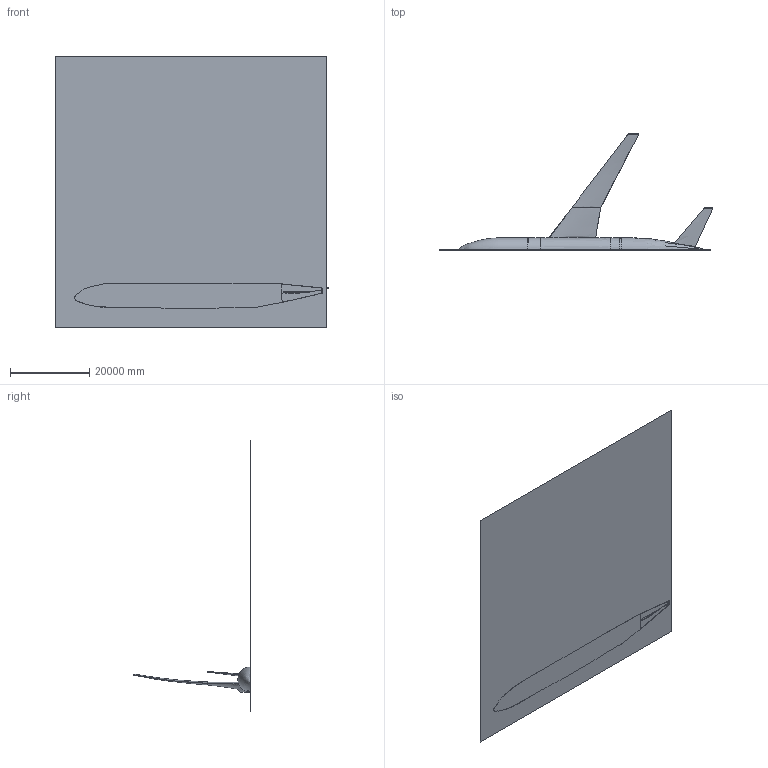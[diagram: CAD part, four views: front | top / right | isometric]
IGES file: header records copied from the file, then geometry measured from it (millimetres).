
Start section: This file was written from GridTool (For more information see ht tp://geolab.larc.nasa.gov/GridTool) or contact GridTool author: Jamshid Samareh (j.a.samareh@larc.nasa.gov)
Global section: file name: 82H/Users/przd/DPW4/DPW4_Grids/MY_Grids/DPW-wbt2dn/CellBase/dpw-        wbt2dn_med-10Mc_5.igs; native system: Jamshid_system(j.a.samareh@larc.nasa.gov); preprocessor: V.0.0.0.0.0; author: 1.e6; organization: Jamshid_Samareh; date: 1090218.17012; units: inch
Bounding box: 69289.83 x 29459.63 x 68580 mm (x, y, z)
Surface area: 6641700156.9 mm2 (no closed solid volume)
Topology: 0 solids, 0 shells, 58 faces, 236 edges, 236 vertices
Faces by surface type: bspline 58
